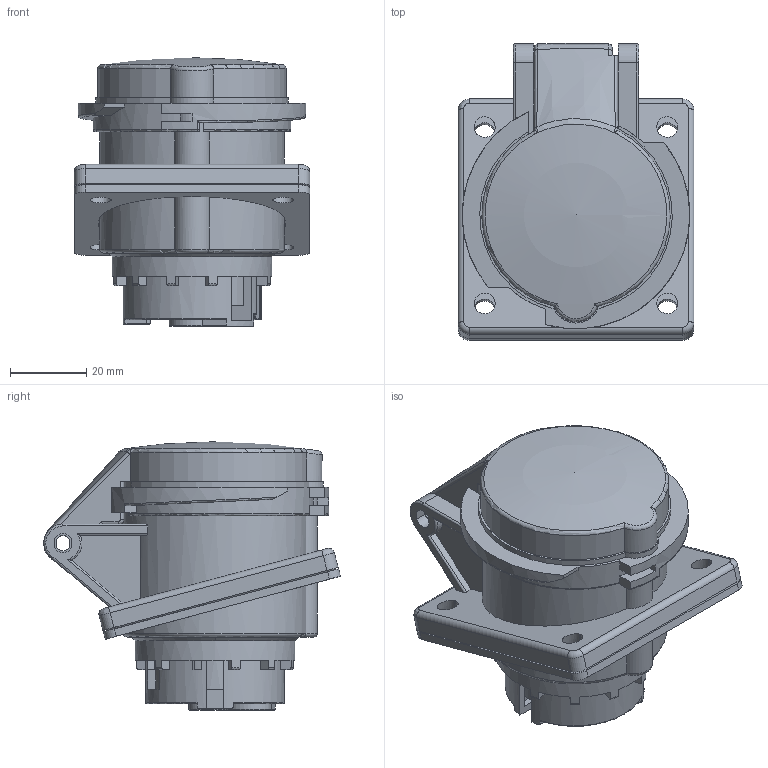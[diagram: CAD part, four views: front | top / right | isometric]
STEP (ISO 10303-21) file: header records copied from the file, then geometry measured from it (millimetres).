
FILE_DESCRIPTION(('FreeCAD Model'),'2;1');
FILE_NAME('Open CASCADE Shape Model','2026-02-04T10:44:17',(''),(''), 'Open CASCADE STEP processor 7.8','FreeCAD','Unknown');
FILE_SCHEMA(('AUTOMOTIVE_DESIGN { 1 0 10303 214 1 1 1 1 }'));
Length unit declared in the file: millimetre
Products named in the file (5): TL3I16432; Tomada; Tampa; Terminais; Base interna
Assembly tree (4 placements, depth 2):
  TL3I16432
    Tomada
    Tampa
    Terminais
    Base interna
Bounding box: 62 x 78.08 x 70.6 mm (x, y, z)
Volume: 141829.1 mm3; surface area: 41098.8 mm2
Topology: 4 solids, 30 shells, 718 faces, 1824 edges, 1184 vertices
Faces by surface type: plane 389, cylinder 191, bspline 49, torus 45, sphere 32, cone 12
Full cylindrical faces by diameter (mm): 7.5 x1, 42 x1
Entity records: 25364 total; most frequent: CARTESIAN_POINT 7883, ORIENTED_EDGE 3646, DIRECTION 3591, EDGE_CURVE 1823, AXIS2_PLACEMENT_3D 1285, VERTEX_POINT 1184, LINE 1021, VECTOR 1021
